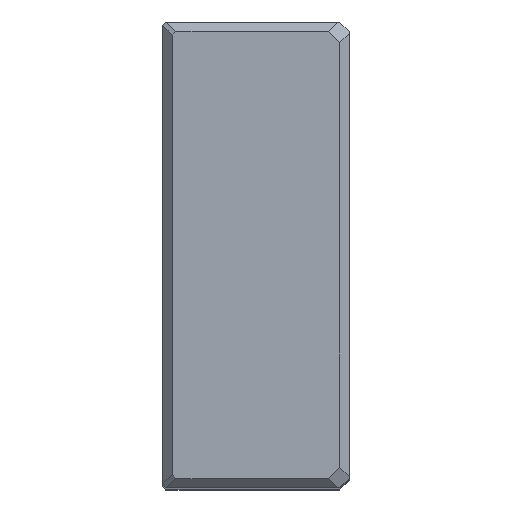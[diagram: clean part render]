
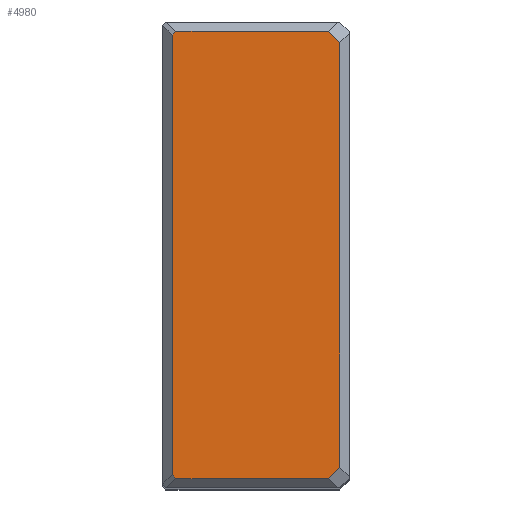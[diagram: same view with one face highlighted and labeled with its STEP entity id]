
A CAD part, top view. The second image highlights one B-rep face of the part: STEP entity #4980.
In plain terms, the highlighted planar face has unit normal (0, 0, 1).
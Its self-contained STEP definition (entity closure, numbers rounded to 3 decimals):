
#130=VERTEX_POINT(' ',#131);
#131=CARTESIAN_POINT('',(-3.,-68.326,0.));
#132=VERTEX_POINT(' ',#133);
#133=CARTESIAN_POINT('',(-6.674,-72.,0.));
#162=VERTEX_POINT(' ',#163);
#163=CARTESIAN_POINT('',(-3.,68.326,0.));
#170=VERTEX_POINT(' ',#171);
#171=CARTESIAN_POINT('',(-6.674,72.,0.));
#196=VERTEX_POINT(' ',#197);
#197=CARTESIAN_POINT('',(-55.775,-72.,0.));
#204=VERTEX_POINT(' ',#205);
#205=CARTESIAN_POINT('',(-57.,-70.775,0.));
#224=VERTEX_POINT(' ',#225);
#225=CARTESIAN_POINT('',(-57.,70.775,0.));
#228=VERTEX_POINT(' ',#229);
#229=CARTESIAN_POINT('',(-55.775,72.,0.));
#1063=LINE('',#1064,#1065);
#1064=CARTESIAN_POINT('',(32.663,-32.663,0.));
#1065=VECTOR('',#1066,1.);
#1066=DIRECTION('',(0.707,0.707,0.));
#1067=EDGE_CURVE(' ',#130,#132,#1063,.F.);
#1193=LINE('',#1194,#1195);
#1194=CARTESIAN_POINT('',(-3.,-75.12,0.));
#1195=VECTOR('',#1196,1.);
#1196=DIRECTION('',(0.,1.,0.));
#1197=EDGE_CURVE(' ',#130,#162,#1193,.T.);
#1218=LINE('',#1219,#1220);
#1219=CARTESIAN_POINT('',(32.663,32.663,0.));
#1220=VECTOR('',#1221,1.);
#1221=DIRECTION('',(-0.707,0.707,0.));
#1222=EDGE_CURVE(' ',#170,#162,#1218,.F.);
#1363=LINE('',#1364,#1365);
#1364=CARTESIAN_POINT('',(-60.12,-72.,0.));
#1365=VECTOR('',#1366,1.);
#1366=DIRECTION('',(1.,0.,0.));
#1367=EDGE_CURVE(' ',#196,#132,#1363,.T.);
#1378=LINE('',#1379,#1380);
#1379=CARTESIAN_POINT('',(-63.888,-63.888,0.));
#1380=VECTOR('',#1381,1.);
#1381=DIRECTION('',(0.707,-0.707,0.));
#1382=EDGE_CURVE(' ',#196,#204,#1378,.F.);
#1475=LINE('',#1476,#1477);
#1476=CARTESIAN_POINT('',(-57.,-75.12,0.));
#1477=VECTOR('',#1478,1.);
#1478=DIRECTION('',(0.,1.,0.));
#1479=EDGE_CURVE(' ',#204,#224,#1475,.T.);
#1480=LINE('',#1481,#1482);
#1481=CARTESIAN_POINT('',(-63.888,63.888,0.));
#1482=VECTOR('',#1483,1.);
#1483=DIRECTION('',(-0.707,-0.707,0.));
#1484=EDGE_CURVE(' ',#224,#228,#1480,.F.);
#1485=LINE('',#1486,#1487);
#1486=CARTESIAN_POINT('',(-60.12,72.,0.));
#1487=VECTOR('',#1488,1.);
#1488=DIRECTION('',(1.,0.,0.));
#1489=EDGE_CURVE(' ',#170,#228,#1485,.F.);
#4965=ORIENTED_EDGE('',*,*,#1484,.F.);
#4966=ORIENTED_EDGE('',*,*,#1479,.F.);
#4967=ORIENTED_EDGE('',*,*,#1382,.F.);
#4968=ORIENTED_EDGE('',*,*,#1367,.T.);
#4969=ORIENTED_EDGE('',*,*,#1067,.F.);
#4970=ORIENTED_EDGE('',*,*,#1197,.T.);
#4971=ORIENTED_EDGE('',*,*,#1222,.F.);
#4972=ORIENTED_EDGE('',*,*,#1489,.T.);
#4973=EDGE_LOOP('',(#4965,#4966,#4967,#4968,#4969,#4970,#4971,#4972));
#4974=FACE_OUTER_BOUND('',#4973,.T.);
#4975=PLANE('',#4976);
#4976=AXIS2_PLACEMENT_3D('',#4977,#4978,#4979);
#4977=CARTESIAN_POINT('',(-57.,0.,0.));
#4978=DIRECTION('',(0.,0.,1.));
#4979=DIRECTION('',(1.,0.,0.));
#4980=ADVANCED_FACE('',(#4974),#4975,.T.);
